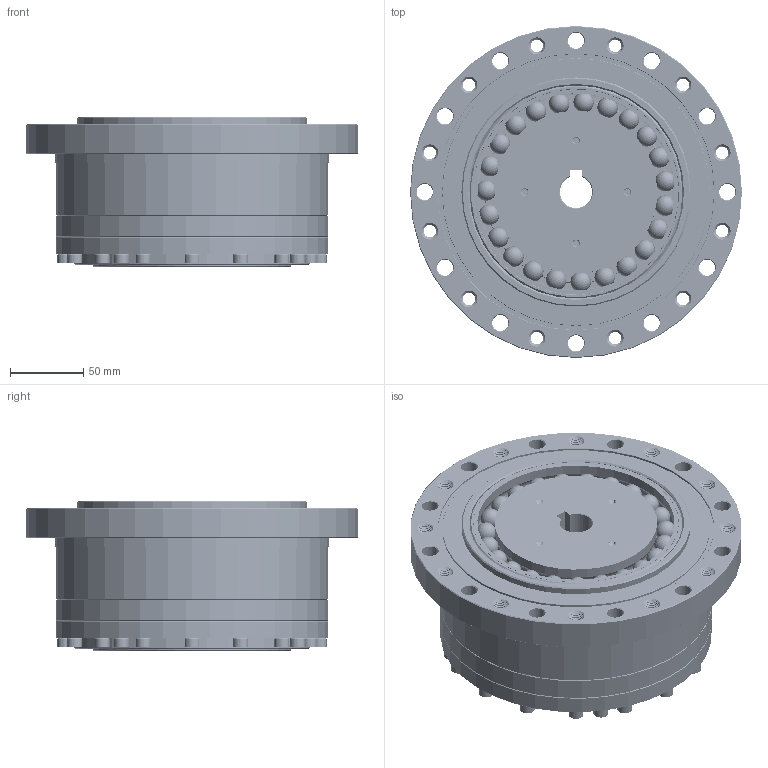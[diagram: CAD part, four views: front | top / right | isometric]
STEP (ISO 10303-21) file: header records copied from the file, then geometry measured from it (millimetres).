
FILE_DESCRIPTION(/* description */ (''),/* implementation_level */ '2;1');
FILE_NAME(/* name */ 'XBS58成品图.prt.stp',/* time_stamp */ '2022-07-23T12:58:50+08:00',/* author */ (''),/* organization */ (''),/* preprocessor_version */ 'ST-DEVELOPER v16',/* originating_system */ 'SIEMENS PLM Software NX 10.0',/* authorisation */ '');
FILE_SCHEMA (('CONFIG_CONTROL_DESIGN'));
Products named in the file (12): XBS58-3-1凸轮; 58-柔性轴承（国标）; M6 X25; M6X40; M16X40; XBS58-2-1柔轮压板; XBS58-2柔轮; G1351558; XBS58-4-1内芯; XBS58-4-3上盖; XBS58-4-2下盖; XBS58成品图
Assembly tree (36 placements, depth 2):
  XBS58成品图
    XBS58-4-2下盖
    XBS58-4-3上盖
    XBS58-4-1内芯
    G1351558
    XBS58-2柔轮
    XBS58-2-1柔轮压板
    M16X40  x8
    M6X40  x16
    M6 X25  x4
    58-柔性轴承（国标）
    XBS58-3-1凸轮
Bounding box: 226 x 226 x 102 mm (x, y, z)
Volume: 1862241.5 mm3; surface area: 596019.2 mm2
Topology: 61 solids, 61 shells, 1914 faces, 5062 edges, 3319 vertices
Faces by surface type: cylinder 765, plane 484, cone 400, bspline 188, extrusion 45, sphere 23, torus 9
Full cylindrical faces by diameter (mm): 6 x464, 6.5 x36, 10.22 x20, 11 x12, 17.5 x16, 24.33 x8, 38 x2, 40 x1, 46 x4, 46.5 x2, 92.8 x1, 94 x1, 102 x1, 105 x1, 107 x1, 110.7 x2, 122.5 x1, 124.5 x1, 125.5 x1, 128.1 x1, 134.3 x2, 134.5 x1, 135 x2, 138.6 x2, 140 x2, 141.4 x1, 143.4 x2, 143.869 x1, 145 x1, 146 x1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
Entity records: 262050 total; most frequent: CARTESIAN_POINT 240681, ORIENTED_EDGE 3656, DIRECTION 3406, EDGE_CURVE 1828, EDGE_LOOP 1615, AXIS2_PLACEMENT_3D 1524, VERTEX_POINT 1434, FACE_BOUND 1212
